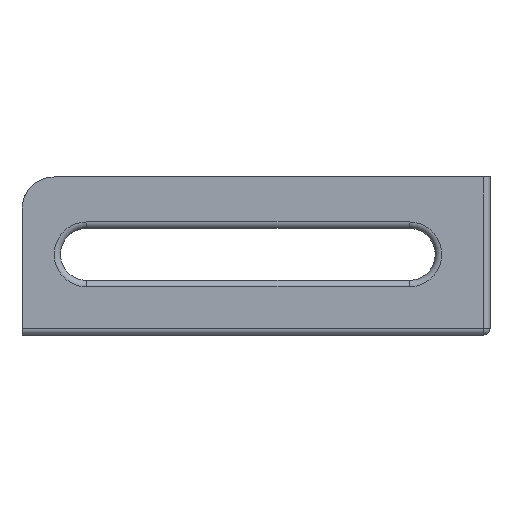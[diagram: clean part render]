
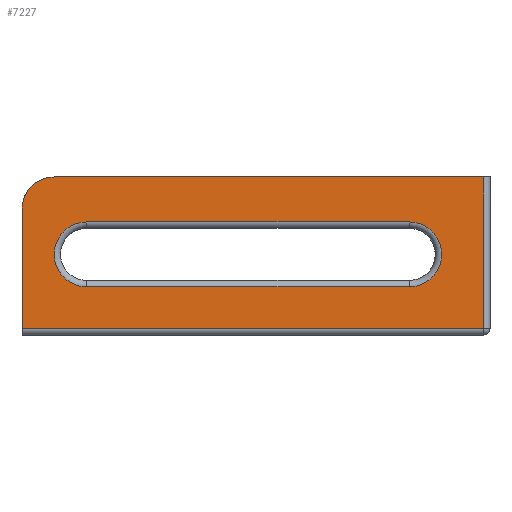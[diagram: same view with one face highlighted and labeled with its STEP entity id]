
A CAD part, front view. The second image highlights one B-rep face of the part: STEP entity #7227.
In plain terms, the highlighted planar face has unit normal (0, -1, 0).
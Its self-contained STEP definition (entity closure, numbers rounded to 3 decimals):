
#115 = CARTESIAN_POINT ( 'NONE',  ( -2., 0., 49. ) ) ;
#139 = CIRCLE ( 'NONE', #4909, 10.04 ) ;
#161 = VECTOR ( 'NONE', #7373, 1000. ) ;
#196 = VERTEX_POINT ( 'NONE', #4153 ) ;
#316 = VECTOR ( 'NONE', #8398, 1000. ) ;
#488 = VERTEX_POINT ( 'NONE', #6906 ) ;
#523 = CARTESIAN_POINT ( 'NONE',  ( -125., 0., 35.04 ) ) ;
#636 = CARTESIAN_POINT ( 'NONE',  ( -145., 0., 14.96 ) ) ;
#652 = ORIENTED_EDGE ( 'NONE', *, *, #6910, .T. ) ;
#686 = PLANE ( 'NONE',  #3709 ) ;
#827 = VERTEX_POINT ( 'NONE', #6078 ) ;
#874 = EDGE_CURVE ( 'NONE', #6120, #6267, #2768, .T. ) ;
#894 = DIRECTION ( 'NONE',  ( 0., -1., 0. ) ) ;
#1302 = LINE ( 'NONE', #7833, #316 ) ;
#1320 = EDGE_CURVE ( 'NONE', #1381, #6267, #1302, .T. ) ;
#1381 = VERTEX_POINT ( 'NONE', #7877 ) ;
#1460 = CARTESIAN_POINT ( 'NONE',  ( -145., 0., 49. ) ) ;
#1590 = VECTOR ( 'NONE', #6329, 1000. ) ;
#1657 = CARTESIAN_POINT ( 'NONE',  ( -135., 0., 39. ) ) ;
#1966 = DIRECTION ( 'NONE',  ( 0., 0., 1. ) ) ;
#1974 = DIRECTION ( 'NONE',  ( 0., 1., 0. ) ) ;
#2001 = DIRECTION ( 'NONE',  ( 0., 0., 1. ) ) ;
#2214 = EDGE_CURVE ( 'NONE', #7885, #196, #6504, .T. ) ;
#2248 = ORIENTED_EDGE ( 'NONE', *, *, #874, .F. ) ;
#2355 = CARTESIAN_POINT ( 'NONE',  ( -25., 0., 14.96 ) ) ;
#2768 = LINE ( 'NONE', #1460, #161 ) ;
#2974 = EDGE_LOOP ( 'NONE', ( #3956, #3130, #4294, #652 ) ) ;
#3015 = EDGE_CURVE ( 'NONE', #827, #488, #5131, .T. ) ;
#3130 = ORIENTED_EDGE ( 'NONE', *, *, #4791, .T. ) ;
#3148 = AXIS2_PLACEMENT_3D ( 'NONE', #4630, #5015, #1966 ) ;
#3235 = DIRECTION ( 'NONE',  ( -1., 0., 0. ) ) ;
#3248 = ORIENTED_EDGE ( 'NONE', *, *, #3015, .T. ) ;
#3257 = VECTOR ( 'NONE', #5693, 1000. ) ;
#3475 = VERTEX_POINT ( 'NONE', #523 ) ;
#3544 = AXIS2_PLACEMENT_3D ( 'NONE', #1657, #894, #4190 ) ;
#3665 = ORIENTED_EDGE ( 'NONE', *, *, #1320, .T. ) ;
#3709 = AXIS2_PLACEMENT_3D ( 'NONE', #7905, #1974, #5310 ) ;
#3717 = VERTEX_POINT ( 'NONE', #3939 ) ;
#3873 = CARTESIAN_POINT ( 'NONE',  ( -145., 0., 49. ) ) ;
#3939 = CARTESIAN_POINT ( 'NONE',  ( -25., 0., 35.04 ) ) ;
#3956 = ORIENTED_EDGE ( 'NONE', *, *, #2214, .T. ) ;
#4153 = CARTESIAN_POINT ( 'NONE',  ( -125., 0., 14.96 ) ) ;
#4190 = DIRECTION ( 'NONE',  ( 0., 0., 1. ) ) ;
#4294 = ORIENTED_EDGE ( 'NONE', *, *, #5113, .T. ) ;
#4501 = CIRCLE ( 'NONE', #3148, 10.04 ) ;
#4518 = LINE ( 'NONE', #7166, #3257 ) ;
#4627 = CARTESIAN_POINT ( 'NONE',  ( -125., 0., 25. ) ) ;
#4630 = CARTESIAN_POINT ( 'NONE',  ( -25., 0., 25. ) ) ;
#4791 = EDGE_CURVE ( 'NONE', #196, #3475, #139, .T. ) ;
#4909 = AXIS2_PLACEMENT_3D ( 'NONE', #4627, #5862, #2001 ) ;
#4989 = CARTESIAN_POINT ( 'NONE',  ( -135., 0., 49. ) ) ;
#5015 = DIRECTION ( 'NONE',  ( 0., 1., 0. ) ) ;
#5111 = EDGE_LOOP ( 'NONE', ( #5694, #3665, #2248, #5336, #3248 ) ) ;
#5113 = EDGE_CURVE ( 'NONE', #3475, #3717, #8325, .T. ) ;
#5131 = LINE ( 'NONE', #3873, #7655 ) ;
#5269 = FACE_OUTER_BOUND ( 'NONE', #5111, .T. ) ;
#5310 = DIRECTION ( 'NONE',  ( 0., 0., 1. ) ) ;
#5336 = ORIENTED_EDGE ( 'NONE', *, *, #6742, .T. ) ;
#5693 = DIRECTION ( 'NONE',  ( 1., 0., 0. ) ) ;
#5694 = ORIENTED_EDGE ( 'NONE', *, *, #5892, .T. ) ;
#5862 = DIRECTION ( 'NONE',  ( 0., 1., 0. ) ) ;
#5892 = EDGE_CURVE ( 'NONE', #488, #1381, #4518, .T. ) ;
#6078 = CARTESIAN_POINT ( 'NONE',  ( -145., 0., 39. ) ) ;
#6120 = VERTEX_POINT ( 'NONE', #4989 ) ;
#6234 = VECTOR ( 'NONE', #3235, 1000. ) ;
#6267 = VERTEX_POINT ( 'NONE', #115 ) ;
#6329 = DIRECTION ( 'NONE',  ( 1., 0., 0. ) ) ;
#6504 = LINE ( 'NONE', #636, #6234 ) ;
#6718 = FACE_BOUND ( 'NONE', #2974, .T. ) ;
#6742 = EDGE_CURVE ( 'NONE', #6120, #827, #8099, .T. ) ;
#6906 = CARTESIAN_POINT ( 'NONE',  ( -145., 0., 2. ) ) ;
#6910 = EDGE_CURVE ( 'NONE', #3717, #7885, #4501, .T. ) ;
#7071 = CARTESIAN_POINT ( 'NONE',  ( -145., 0., 35.04 ) ) ;
#7073 = DIRECTION ( 'NONE',  ( 0., 0., -1. ) ) ;
#7166 = CARTESIAN_POINT ( 'NONE',  ( -145., 0., 2. ) ) ;
#7227 = ADVANCED_FACE ( 'NONE', ( #6718, #5269 ), #686, .F. ) ;
#7373 = DIRECTION ( 'NONE',  ( 1., 0., 0. ) ) ;
#7655 = VECTOR ( 'NONE', #7073, 1000. ) ;
#7833 = CARTESIAN_POINT ( 'NONE',  ( -2., 0., 49. ) ) ;
#7877 = CARTESIAN_POINT ( 'NONE',  ( -2., 0., 2. ) ) ;
#7885 = VERTEX_POINT ( 'NONE', #2355 ) ;
#7905 = CARTESIAN_POINT ( 'NONE',  ( -145., 0., 49. ) ) ;
#8099 = CIRCLE ( 'NONE', #3544, 10. ) ;
#8325 = LINE ( 'NONE', #7071, #1590 ) ;
#8398 = DIRECTION ( 'NONE',  ( 0., 0., 1. ) ) ;
